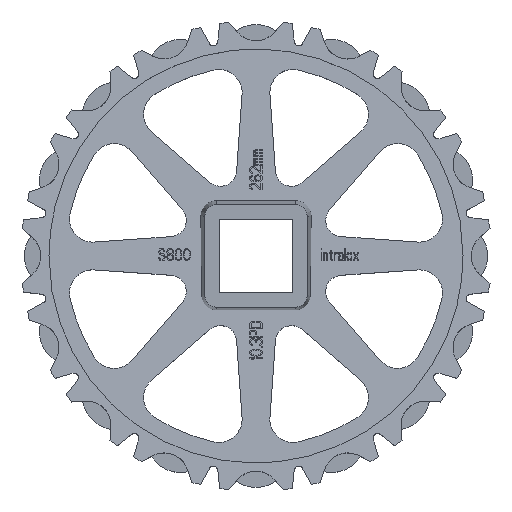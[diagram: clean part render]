
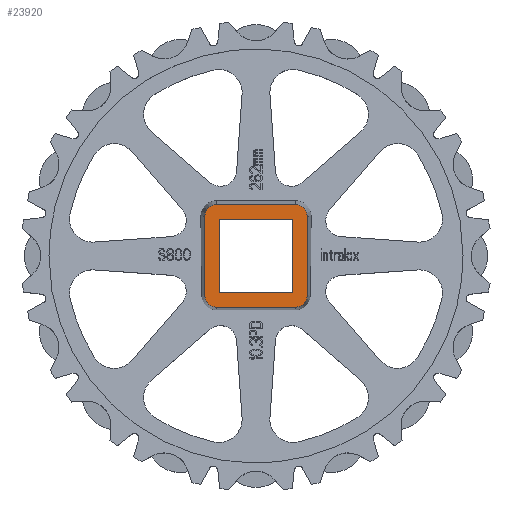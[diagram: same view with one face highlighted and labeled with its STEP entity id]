
A CAD part, top view. The second image highlights one B-rep face of the part: STEP entity #23920.
In plain terms, the highlighted planar face has unit normal (0, 0, 1).
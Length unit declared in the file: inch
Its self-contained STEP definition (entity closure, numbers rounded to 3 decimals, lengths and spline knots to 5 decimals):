
#8037=CARTESIAN_POINT('',(0.85,0.85,0.99));
#8038=DIRECTION('',(0.,0.,1.));
#8039=DIRECTION('',(1.,0.,0.));
#8040=AXIS2_PLACEMENT_3D('',#8037,#8038,#8039);
#8042=DIRECTION('',(0.,1.,0.));
#8043=VECTOR('',#8042,1.7);
#8044=CARTESIAN_POINT('',(1.1,-0.85,0.99));
#8045=LINE('',#8044,#8043);
#8046=CARTESIAN_POINT('',(0.85,-0.85,0.99));
#8047=DIRECTION('',(0.,0.,1.));
#8048=DIRECTION('',(0.,-1.,0.));
#8049=AXIS2_PLACEMENT_3D('',#8046,#8047,#8048);
#8051=DIRECTION('',(1.,0.,0.));
#8052=VECTOR('',#8051,1.7);
#8053=CARTESIAN_POINT('',(-0.85,-1.1,0.99));
#8054=LINE('',#8053,#8052);
#8055=CARTESIAN_POINT('',(-0.85,-0.85,0.99));
#8056=DIRECTION('',(0.,0.,1.));
#8057=DIRECTION('',(-1.,0.,0.));
#8058=AXIS2_PLACEMENT_3D('',#8055,#8056,#8057);
#8060=DIRECTION('',(0.,-1.,0.));
#8061=VECTOR('',#8060,1.7);
#8062=CARTESIAN_POINT('',(-1.1,0.85,0.99));
#8063=LINE('',#8062,#8061);
#8064=CARTESIAN_POINT('',(-0.85,0.85,0.99));
#8065=DIRECTION('',(0.,0.,1.));
#8066=DIRECTION('',(0.,1.,0.));
#8067=AXIS2_PLACEMENT_3D('',#8064,#8065,#8066);
#8069=DIRECTION('',(-1.,0.,0.));
#8070=VECTOR('',#8069,1.7);
#8071=CARTESIAN_POINT('',(0.85,1.1,0.99));
#8072=LINE('',#8071,#8070);
#8073=DIRECTION('',(0.,-1.,0.));
#8074=VECTOR('',#8073,1.575);
#8075=CARTESIAN_POINT('',(-0.7875,0.7875,0.99));
#8076=LINE('',#8075,#8074);
#8077=DIRECTION('',(1.,0.,0.));
#8078=VECTOR('',#8077,1.575);
#8079=CARTESIAN_POINT('',(-0.7875,-0.7875,0.99));
#8080=LINE('',#8079,#8078);
#8081=DIRECTION('',(0.,1.,0.));
#8082=VECTOR('',#8081,1.575);
#8083=CARTESIAN_POINT('',(0.7875,-0.7875,0.99));
#8084=LINE('',#8083,#8082);
#8085=DIRECTION('',(-1.,0.,0.));
#8086=VECTOR('',#8085,1.575);
#8087=CARTESIAN_POINT('',(0.7875,0.7875,0.99));
#8088=LINE('',#8087,#8086);
#17701=CARTESIAN_POINT('',(1.1,0.85,0.99));
#17702=CARTESIAN_POINT('',(0.85,1.1,0.99));
#17703=VERTEX_POINT('',#17701);
#17704=VERTEX_POINT('',#17702);
#17705=CARTESIAN_POINT('',(-0.85,1.1,0.99));
#17706=VERTEX_POINT('',#17705);
#17707=CARTESIAN_POINT('',(-1.1,0.85,0.99));
#17708=VERTEX_POINT('',#17707);
#17709=CARTESIAN_POINT('',(-1.1,-0.85,0.99));
#17710=VERTEX_POINT('',#17709);
#17711=CARTESIAN_POINT('',(-0.85,-1.1,0.99));
#17712=VERTEX_POINT('',#17711);
#17713=CARTESIAN_POINT('',(0.85,-1.1,0.99));
#17714=VERTEX_POINT('',#17713);
#17715=CARTESIAN_POINT('',(1.1,-0.85,0.99));
#17716=VERTEX_POINT('',#17715);
#17841=CARTESIAN_POINT('',(-0.7875,0.7875,0.99));
#17842=CARTESIAN_POINT('',(-0.7875,-0.7875,0.99));
#17843=VERTEX_POINT('',#17841);
#17844=VERTEX_POINT('',#17842);
#17845=CARTESIAN_POINT('',(0.7875,-0.7875,0.99));
#17846=VERTEX_POINT('',#17845);
#17847=CARTESIAN_POINT('',(0.7875,0.7875,0.99));
#17848=VERTEX_POINT('',#17847);
#23891=CARTESIAN_POINT('',(0.,0.,0.99));
#23892=DIRECTION('',(0.,0.,1.));
#23893=DIRECTION('',(1.,0.,0.));
#23894=AXIS2_PLACEMENT_3D('',#23891,#23892,#23893);
#23895=PLANE('',#23894);
#23897=ORIENTED_EDGE('',*,*,#23896,.F.);
#23899=ORIENTED_EDGE('',*,*,#23898,.F.);
#23901=ORIENTED_EDGE('',*,*,#23900,.F.);
#23903=ORIENTED_EDGE('',*,*,#23902,.F.);
#23905=ORIENTED_EDGE('',*,*,#23904,.F.);
#23907=ORIENTED_EDGE('',*,*,#23906,.F.);
#23909=ORIENTED_EDGE('',*,*,#23908,.F.);
#23911=ORIENTED_EDGE('',*,*,#23910,.F.);
#23912=EDGE_LOOP('',(#23897,#23899,#23901,#23903,#23905,#23907,#23909,#23911));
#23913=FACE_OUTER_BOUND('',#23912,.F.);
#23914=ORIENTED_EDGE('',*,*,#23843,.T.);
#23915=ORIENTED_EDGE('',*,*,#23858,.T.);
#23916=ORIENTED_EDGE('',*,*,#23872,.T.);
#23917=ORIENTED_EDGE('',*,*,#23885,.T.);
#23918=EDGE_LOOP('',(#23914,#23915,#23916,#23917));
#23919=FACE_BOUND('',#23918,.F.);
#23920=ADVANCED_FACE('',(#23913,#23919),#23895,.T.);
#8041=CIRCLE('',#8040,0.25);
#8050=CIRCLE('',#8049,0.25);
#8059=CIRCLE('',#8058,0.25);
#8068=CIRCLE('',#8067,0.25);
#23843=EDGE_CURVE('',#17843,#17844,#8076,.T.);
#23858=EDGE_CURVE('',#17844,#17846,#8080,.T.);
#23872=EDGE_CURVE('',#17846,#17848,#8084,.T.);
#23885=EDGE_CURVE('',#17848,#17843,#8088,.T.);
#23896=EDGE_CURVE('',#17703,#17704,#8041,.T.);
#23898=EDGE_CURVE('',#17716,#17703,#8045,.T.);
#23900=EDGE_CURVE('',#17714,#17716,#8050,.T.);
#23902=EDGE_CURVE('',#17712,#17714,#8054,.T.);
#23904=EDGE_CURVE('',#17710,#17712,#8059,.T.);
#23906=EDGE_CURVE('',#17708,#17710,#8063,.T.);
#23908=EDGE_CURVE('',#17706,#17708,#8068,.T.);
#23910=EDGE_CURVE('',#17704,#17706,#8072,.T.);
